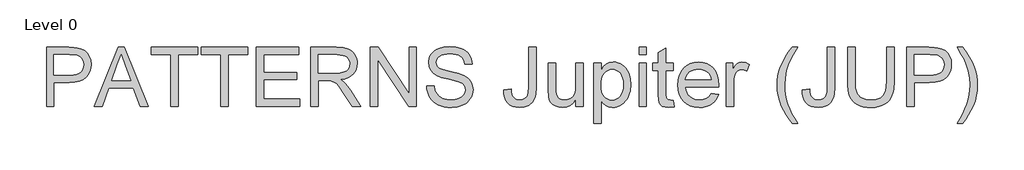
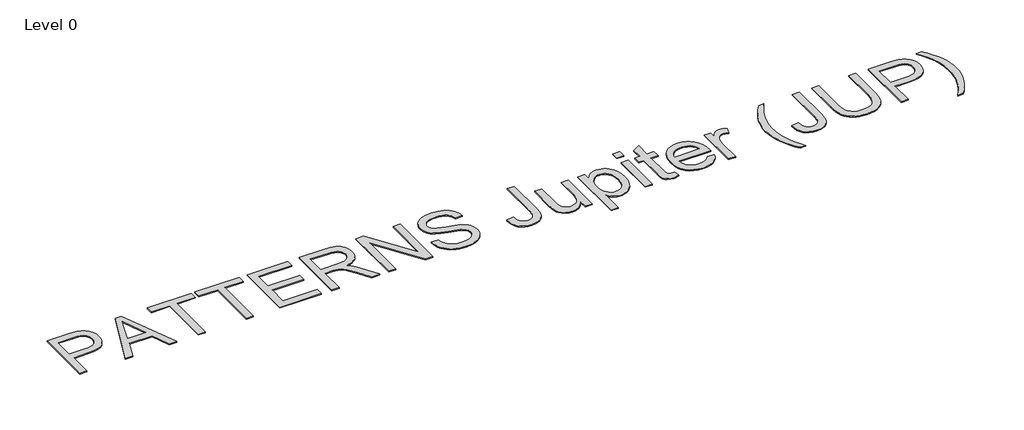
# One storey, part 24 of 29: 1 proxy.
"""IFC4 building model written with IfcOpenShell, lengths in millimetres."""

from ifc_helpers import new_model, si_unit, origin, origin_with_axes, place, context, project, spatial, polyline, outline, extrude, element, save

model = new_model("IFC4")

# Units and contexts
model_context = context("Model", 3, world=origin())
ifc_project = project(units=[si_unit("LENGTHUNIT", "METRE", prefix="MILLI")], contexts=[model_context])

# Site, building, storey
site = spatial("IfcSite", under=ifc_project)
building = spatial("IfcBuilding", under=site)
storey = spatial("IfcBuildingStorey", under=building, Name="Level 0", Elevation=0.0)

# Proxy
placement = place(None, origin())
element("IfcBuildingElementProxy", 1, Name="600mm Arial", ObjectType="600mm Arial", at=placement, inside=storey, context=model_context, shape_type="SweptSolid", body=[
    extrude(outline(polyline([(17122.5368148, -2239.8720473), (17122.5368148, -1637.1341864), (17345.9147622, -1637.1341864), (17397.9332763, -1638.5689262), (17435.9722746, -1642.8731456), (17476.1265944, -1653.5969057), (17509.1807917, -1671.0529064), (17535.797054, -1696.0320939), (17556.6375691, -1729.3254144), (17570.1020501, -1768.5968174), (17574.5902104, -1811.5102521), (17571.5597825, -1848.5099838), (17562.4684987, -1882.5482654), (17547.316359, -1913.625097), (17526.1033635, -1941.7404784), (17496.980905, -1965.0458028), (17458.1003767, -1981.6924631), (17409.4617784, -1991.6804593), (17351.0651102, -1995.0097913), (17197.8790474, -1995.0097913), (17197.8790474, -2239.8720473), (17122.5368148, -2239.8720473)]), holes=[polyline([(17197.8790474, -1919.6675587), (17355.4796941, -1919.6675587), (17391.7160706, -1917.9385133), (17422.2870644, -1912.7513772), (17447.1926755, -1904.1061503), (17466.4329039, -1892.0028327), (17480.7894987, -1876.763321), (17491.0442093, -1858.7095121), (17497.1970357, -1837.8414059), (17499.2479778, -1814.1590025), (17494.4103296, -1780.313859), (17479.8973849, -1751.7662161), (17457.5117655, -1730.2819076), (17429.0560931, -1717.626767), (17399.9934155, -1713.764006), (17353.7138605, -1712.476419), (17197.8790474, -1712.476419), (17197.8790474, -1919.6675587)])]), origin_with_axes(), (0.0, 0.0, 1.0), 10.0),
    extrude(outline(polyline([(17607.9938956, -2239.8720473), (17848.5887204, -1637.1341864), (17912.7473404, -1637.1341864), (18153.3421652, -2239.8720473), (18073.7325015, -2239.8720473), (18004.7178392, -2051.5164658), (17756.4710688, -2051.5164658), (17687.6035594, -2239.8720473), (17607.9938956, -2239.8720473)]), holes=[polyline([(17784.1357949, -1976.1742332), (17977.200266, -1976.1742332), (17922.9008835, -1827.9913655), (17880.6680304, -1712.476419), (17843.1440669, -1815.0419193), (17784.1357949, -1976.1742332)])]), origin_with_axes(), (0.0, 0.0, 1.0), 10.0),
    extrude(outline(polyline([(18384.519211, -2239.8720473), (18384.519211, -1712.476419), (18186.7458504, -1712.476419), (18186.7458504, -1637.1341864), (18657.6348042, -1637.1341864), (18657.6348042, -1712.476419), (18459.8614436, -1712.476419), (18459.8614436, -2239.8720473), (18384.519211, -2239.8720473)])), origin_with_axes(), (0.0, 0.0, 1.0), 10.0),
    extrude(outline(polyline([(18893.0792811, -2239.8720473), (18893.0792811, -1712.476419), (18695.3059205, -1712.476419), (18695.3059205, -1637.1341864), (19166.1948744, -1637.1341864), (19166.1948744, -1712.476419), (18968.4215138, -1712.476419), (18968.4215138, -2239.8720473), (18893.0792811, -2239.8720473)])), origin_with_axes(), (0.0, 0.0, 1.0), 10.0),
    extrude(outline(polyline([(19250.9548861, -2239.8720473), (19250.9548861, -1637.1341864), (19684.1727236, -1637.1341864), (19684.1727236, -1712.476419), (19326.2971187, -1712.476419), (19326.2971187, -1891.4142215), (19665.3371654, -1891.4142215), (19665.3371654, -1966.7564541), (19326.2971187, -1966.7564541), (19326.2971187, -2164.5298147), (19693.5905027, -2164.5298147), (19693.5905027, -2239.8720473), (19250.9548861, -2239.8720473)])), origin_with_axes(), (0.0, 0.0, 1.0), 10.0),
    extrude(outline(polyline([(19806.6038516, -2239.8720473), (19806.6038516, -1637.1341864), (20066.3285402, -1637.1341864), (20136.1341487, -1641.1992825), (20186.9202582, -1653.3945706), (20206.5191715, -1663.0882612), (20224.0395515, -1675.9089487), (20239.4813982, -1691.8566332), (20252.8447117, -1710.9313147), (20263.6282527, -1732.107522), (20271.330782, -1754.3597842), (20275.9522995, -1777.6881012), (20277.4928054, -1802.0924731), (20274.9406241, -1833.049743), (20267.28408, -1861.4686271), (20254.5231733, -1887.3491255), (20236.6579039, -1910.691238), (20213.4583456, -1930.7500038), (20184.6945721, -1946.7804618), (20150.3665834, -1958.7826119), (20110.4743796, -1966.7564541), (20135.3064143, -1982.9800501), (20153.2958438, -1998.9829169), (20184.1611432, -2035.5871754), (20214.364255, -2076.5324415), (20314.8696161, -2239.8720473), (20227.3137013, -2239.8720473), (20148.8812599, -2114.9393218), (20092.2274326, -2032.2394493), (20071.1661884, -2008.1247845), (20052.4226007, -1993.1703814), (20016.5908944, -1978.8229836), (19972.8865134, -1976.1742332), (19881.9460842, -1976.1742332), (19881.9460842, -2239.8720473), (19806.6038516, -2239.8720473)]), holes=[polyline([(19881.9460842, -1900.8320006), (20050.5831908, -1900.8320006), (20099.0148554, -1898.1648561), (20136.5940012, -1890.1634227), (20164.8841267, -1876.2942715), (20185.4487302, -1856.0239736), (20197.9751121, -1831.5046386), (20202.1505728, -1804.8883762), (20200.1594115, -1785.6205567), (20194.1859276, -1768.1369649), (20184.2301211, -1752.4376008), (20170.291992, -1738.5224643), (20152.0496436, -1727.1273195), (20129.181179, -1718.9879304), (20101.6865984, -1714.1042969), (20069.5659017, -1712.476419), (19881.9460842, -1712.476419), (19881.9460842, -1900.8320006)])]), origin_with_axes(), (0.0, 0.0, 1.0), 10.0),
    extrude(outline(polyline([(20409.3417125, -2239.8720473), (20409.3417125, -1637.1341864), (20489.9814458, -1637.1341864), (20804.8884337, -2114.6450162), (20804.8884337, -1637.1341864), (20880.2306663, -1637.1341864), (20880.2306663, -2239.8720473), (20799.590933, -2239.8720473), (20484.6839451, -1762.2140648), (20484.6839451, -2239.8720473), (20409.3417125, -2239.8720473)])), origin_with_axes(), (0.0, 0.0, 1.0), 10.0),
    extrude(outline(polyline([(20983.8262361, -2032.6809076), (21059.1684687, -2032.6809076), (21067.8136956, -2074.4906964), (21083.4486804, -2108.0967167), (21107.8392567, -2134.7681613), (21142.7512581, -2155.7742232), (21185.4255695, -2169.4042512), (21233.1030761, -2173.9475938), (21275.0784117, -2170.5078971), (21311.829823, -2160.1888072), (21341.6098705, -2143.8548466), (21362.6711148, -2122.3705381), (21375.1974967, -2097.7040503), (21379.3729573, -2071.8235519), (21376.2459604, -2046.6052412), (21366.8649695, -2024.8082329), (21347.8086822, -2006.2117981), (21315.6557958, -1990.5952074), (21205.9533848, -1961.8268354), (21133.9404843, -1942.7889421), (21087.8632644, -1924.6707539), (21050.357695, -1899.3236844), (21023.7782208, -1868.6055378), (21007.9409009, -1833.1785017), (21002.6617943, -1793.7047636), (21004.2942706, -1771.2685604), (21009.1916997, -1749.5773183), (21017.3540815, -1728.6310372), (21028.7814159, -1708.4297171), (21043.3449444, -1689.796494), (21060.9159082, -1673.554504), (21081.4943073, -1659.7037468), (21105.0801417, -1648.2442227), (21158.0919372, -1632.8483612), (21216.7691155, -1627.7164074), (21280.3391242, -1633.0874845), (21335.9628819, -1649.2007159), (21360.2982759, -1661.202866), (21381.6538257, -1675.7250077), (21400.0295314, -1692.7671412), (21415.4253929, -1712.3292662), (21427.7218486, -1733.8411659), (21436.7993368, -1756.7326231), (21442.6578576, -1781.0036377), (21445.2974109, -1806.6542098), (21369.9551783, -1806.6542098), (21364.9151949, -1782.6131214), (21356.1228153, -1761.69903), (21343.5780392, -1743.9119355), (21327.2808668, -1729.251838), (21306.9277954, -1717.7923139), (21282.2153224, -1709.6069395), (21253.1434478, -1704.6957148), (21219.7121714, -1703.05864), (21185.2140373, -1704.6773207), (21155.7374925, -1709.5333631), (21131.2825369, -1717.626767), (21111.8491705, -1728.9575324), (21097.0419202, -1742.5783633), (21086.4653128, -1757.5419635), (21080.1193484, -1773.8483329), (21078.0040269, -1791.4974716), (21079.503146, -1806.681801), (21084.0005034, -1820.4497846), (21091.4960991, -1832.8014226), (21101.989933, -1843.7367149), (21118.5078346, -1854.0925931), (21144.5170916, -1864.5588358), (21225.0096722, -1885.8224152), (21308.0774267, -1906.0191367), (21358.3301072, -1923.6406843), (21401.2803302, -1950.9743165), (21417.8856037, -1967.0415627), (21431.2443187, -1984.7090955), (21441.5128249, -2003.8849445), (21448.8474721, -2024.4771392), (21454.71519, -2069.9105656), (21453.0275313, -2093.4780059), (21447.9645553, -2116.3556674), (21439.5262621, -2138.5435503), (21427.7126515, -2160.0416544), (21412.7306573, -2180.0176467), (21394.7872129, -2197.6391943), (21373.8823186, -2212.9062971), (21350.0159741, -2225.8189551), (21323.8825569, -2236.0874613), (21296.1764441, -2243.4221086), (21236.046132, -2249.2898264), (21197.5058945, -2247.7079338), (21162.2306097, -2242.9622561), (21130.2202776, -2235.0527932), (21101.4748982, -2223.9795451), (21075.8197276, -2209.7241178), (21053.0800217, -2192.2681172), (21033.2557807, -2171.6115431), (21016.3470045, -2147.7543957), (21002.7261736, -2121.4692272), (20992.7657686, -2093.5285896), (20986.4657894, -2063.9324831), (20983.8262361, -2032.6809076)])), origin_with_axes(), (0.0, 0.0, 1.0), 10.0),
    extrude(outline(polyline([(21765.5018995, -2070.6463295), (21840.8441321, -2060.9342449), (21843.5020795, -2090.8890363), (21848.6800186, -2115.711874), (21856.3779493, -2135.4027577), (21866.5958718, -2149.9616877), (21879.177436, -2160.4555216), (21893.9662922, -2167.9511173), (21910.9624404, -2172.4484747), (21930.1658805, -2173.9475938), (21957.9961535, -2170.5446853), (21981.7429363, -2160.33596), (22000.0634596, -2144.2595168), (22011.6149543, -2123.2534549), (22017.7401895, -2092.848008), (22019.7819346, -2048.5734098), (22019.7819346, -1637.1341864), (22095.1241672, -1637.1341864), (22095.1241672, -2047.2490347), (22090.5808245, -2114.3323165), (22084.9016462, -2141.4590151), (22076.9507966, -2164.3090855), (22066.5305391, -2183.7930357), (22053.4431371, -2200.8213735), (22037.6885907, -2215.3940991), (22019.2668998, -2227.5112123), (21976.353465, -2243.8451729), (21926.6342134, -2249.2898264), (21889.505723, -2246.4801277), (21856.9941517, -2238.0510315), (21829.0994994, -2224.0025378), (21805.8217662, -2204.3346466), (21787.5748192, -2179.1209344), (21774.7725258, -2148.4349774), (21767.4148859, -2112.2767758), (21765.5018995, -2070.6463295)])), origin_with_axes(), (0.0, 0.0, 1.0), 10.0),
    extrude(outline(polyline([(22500.0886675, -2239.8720473), (22500.0886675, -2163.7940507), (22472.8286116, -2201.1984526), (22441.0803954, -2227.9158825), (22404.8440189, -2243.9463404), (22364.119482, -2249.2898264), (22327.423253, -2245.5374301), (22293.2654098, -2234.280241), (22264.6074023, -2217.3576692), (22244.4106808, -2196.6091247), (22230.8174411, -2171.409208), (22221.9698791, -2141.1325198), (22217.5552952, -2071.0877879), (22217.5552952, -1797.2364307), (22292.8975278, -1797.2364307), (22292.8975278, -2035.6239636), (22294.037962, -2083.3014702), (22297.4592645, -2112.4377242), (22308.4405421, -2138.0607052), (22327.2577061, -2157.5400568), (22352.6599579, -2169.8457095), (22383.3964986, -2173.9475938), (22415.8988729, -2169.753739), (22446.3043198, -2157.1721748), (22471.3754777, -2137.3617294), (22487.8749852, -2111.481231), (22497.0352469, -2076.0358008), (22500.0886675, -2027.5305597), (22500.0886675, -1797.2364307), (22575.4309001, -1797.2364307), (22575.4309001, -2239.8720473), (22500.0886675, -2239.8720473)])), origin_with_axes(), (0.0, 0.0, 1.0), 10.0),
    extrude(outline(polyline([(22679.0264699, -2409.3920707), (22679.0264699, -1797.2364307), (22754.3687025, -1797.2364307), (22754.3687025, -1871.1071354), (22778.9432198, -1834.6684237), (22806.460793, -1808.6407726), (22838.540103, -1793.0241819), (22876.7998305, -1787.8186517), (22903.075802, -1789.6396675), (22927.7514868, -1795.1027152), (22950.826885, -1804.2077945), (22972.3019965, -1816.9549057), (22991.7077717, -1833.0129548), (23008.5751612, -1852.050848), (23022.9041649, -1874.0685854), (23034.6947828, -1899.066167), (23050.4769204, -1954.5795601), (23055.737633, -2015.1697247), (23049.7963387, -2079.6042561), (23042.369721, -2109.2693405), (23031.9724561, -2137.2329707), (23018.7470984, -2162.7639811), (23002.8362021, -2185.1312064), (22984.2397672, -2204.3346466), (22962.9577938, -2220.3743016), (22940.034147, -2233.0248437), (22916.5126919, -2242.0609452), (22892.3934286, -2247.4826061), (22867.676357, -2249.2898264), (22833.0402672, -2244.4521782), (22802.1197855, -2229.9392335), (22775.6506759, -2208.0318606), (22754.3687025, -2181.0109281), (22754.3687025, -2409.3920707), (22679.0264699, -2409.3920707)]), holes=[polyline([(22754.3687025, -2022.0859062), (22756.4058491, -2058.3958591), (22762.5172887, -2089.6290405), (22772.7030215, -2115.7854504), (22786.9630473, -2136.8650887), (22804.1293409, -2153.0886847), (22823.0338769, -2164.6769675), (22843.6766554, -2171.6299372), (22866.0576763, -2173.9475938), (22888.7605939, -2171.5471638), (22909.7804514, -2164.3458737), (22929.1172488, -2152.3437236), (22946.770986, -2135.5407135), (22961.4816673, -2113.69772), (22971.9892968, -2086.5756199), (22978.2938745, -2054.1744132), (22980.3954004, -2016.4940999), (22978.3444582, -1980.4968466), (22972.1916319, -1949.3188475), (22961.9369213, -1922.9601026), (22947.5803264, -1901.4206118), (22930.3726461, -1884.681981), (22911.5646791, -1872.7258161), (22891.1564254, -1865.5521172), (22869.147885, -1863.1608843), (22847.2083225, -1865.7038686), (22826.5655441, -1873.3328214), (22807.2195497, -1886.0477429), (22789.1703393, -1903.8486329), (22773.9446232, -1926.4963683), (22763.0691117, -1953.7518256), (22756.5438048, -1985.6150049), (22754.3687025, -2022.0859062)])]), origin_with_axes(), (0.0, 0.0, 1.0), 10.0),
    extrude(outline(polyline([(23140.4976447, -1712.476419), (23140.4976447, -1637.1341864), (23215.8398773, -1637.1341864), (23215.8398773, -1712.476419), (23140.4976447, -1712.476419)])), origin_with_axes(), (0.0, 0.0, 1.0), 10.0),
    extrude(outline(polyline([(23140.4976447, -2239.8720473), (23140.4976447, -1797.2364307), (23215.8398773, -1797.2364307), (23215.8398773, -2239.8720473), (23140.4976447, -2239.8720473)])), origin_with_axes(), (0.0, 0.0, 1.0), 10.0),
    extrude(outline(polyline([(23488.9554705, -2177.0378026), (23498.3732496, -2242.0793393), (23442.0137279, -2249.2898264), (23405.8509278, -2246.1628294), (23378.8851775, -2236.7818386), (23359.8288902, -2222.3240762), (23347.3944787, -2203.9667646), (23340.5518736, -2172.4392776), (23338.2710053, -2118.4709889), (23338.2710053, -1872.5786633), (23281.7643308, -1872.5786633), (23281.7643308, -1797.2364307), (23338.2710053, -1797.2364307), (23338.2710053, -1689.6677353), (23413.6132379, -1645.3747431), (23413.6132379, -1797.2364307), (23488.9554705, -1797.2364307), (23488.9554705, -1872.5786633), (23413.6132379, -1872.5786633), (23413.6132379, -2116.2636969), (23417.5863634, -2155.1120356), (23430.4622333, -2168.8708223), (23441.3331462, -2172.6784009), (23456.1403965, -2173.9475938), (23488.9554705, -2177.0378026)])), origin_with_axes(), (0.0, 0.0, 1.0), 10.0),
    extrude(outline(polyline([(23874.2014958, -2108.0231403), (23948.0722005, -2117.4409193), (23936.7460335, -2147.0278288), (23921.4559381, -2173.1014652), (23902.2019142, -2195.6618286), (23878.9839618, -2214.7089189), (23852.0412042, -2229.8380659), (23821.6127646, -2240.6445995), (23787.6986432, -2247.1285197), (23750.2988399, -2249.2898264), (23703.5502353, -2245.5604227), (23661.8967964, -2234.3722115), (23625.3385232, -2215.7251929), (23593.8754155, -2189.6193668), (23568.5743313, -2156.7813002), (23550.5021283, -2117.93756), (23539.6588065, -2073.0881463), (23536.0443659, -2022.233059), (23539.6955947, -1969.6535248), (23550.6492811, -1923.3095905), (23568.9054251, -1883.201256), (23594.4640267, -1849.3285212), (23625.8443609, -1822.4179533), (23661.5657026, -1803.1961191), (23701.6280519, -1791.6630185), (23746.0314087, -1787.8186517), (23789.0046243, -1791.6538215), (23827.8667585, -1803.1593309), (23862.6178115, -1822.3351799), (23893.2577832, -1849.1813685), (23918.2691603, -1882.9805268), (23936.1344297, -1923.0152849), (23946.8535914, -1969.2856428), (23950.4266452, -2021.7916006), (23949.9851868, -2042.0986867), (23611.3865985, -2042.0986867), (23615.7505987, -2072.1638428), (23624.4280152, -2098.4949966), (23637.4188482, -2121.0921481), (23654.7230975, -2139.9552974), (23675.3842701, -2154.8269271), (23698.4458726, -2165.4495197), (23723.9079052, -2171.8230753), (23751.7703678, -2173.9475938), (23791.8695053, -2170.0112564), (23825.6410725, -2158.2022444), (23853.0850693, -2137.7847937), (23874.2014958, -2108.0231403)]), holes=[polyline([(23611.3865985, -1966.7564541), (23875.0844126, -1966.7564541), (23864.8940814, -1926.9516222), (23856.1292928, -1911.2982433), (23844.918089, -1898.4775558), (23824.3718796, -1883.026512), (23800.9929788, -1871.9900522), (23774.7813866, -1865.3681762), (23745.7371031, -1863.1608843), (23719.2450009, -1864.9221193), (23694.9509937, -1870.2058245), (23672.8550814, -1879.0119997), (23652.9572639, -1891.3406451), (23636.2600199, -1906.6215435), (23623.7658276, -1924.2844778), (23615.4746872, -1944.329448), (23611.3865985, -1966.7564541)])]), origin_with_axes(), (0.0, 0.0, 1.0), 10.0),
    extrude(outline(polyline([(24025.7688779, -2239.8720473), (24025.7688779, -1797.2364307), (24091.6933314, -1797.2364307), (24091.6933314, -1862.7194259), (24116.0471195, -1824.754004), (24138.4879212, -1802.3867787), (24161.0022993, -1791.4606834), (24185.5768166, -1787.8186517), (24223.1007801, -1793.6311872), (24261.2133548, -1811.0687938), (24236.0502263, -1878.6119281), (24209.5627226, -1867.0236452), (24183.075219, -1863.1608843), (24160.579235, -1866.8764924), (24140.4744839, -1878.0233169), (24124.2324939, -1895.755229), (24113.3247927, -1919.2261003), (24104.164531, -1961.3118006), (24101.1111105, -2007.2234736), (24101.1111105, -2239.8720473), (24025.7688779, -2239.8720473)])), origin_with_axes(), (0.0, 0.0, 1.0), 10.0),
    extrude(outline(polyline([(24694.4311923, -2409.3920707), (24664.0165483, -2370.0378943), (24636.0483197, -2327.4647504), (24610.5265062, -2281.672639), (24587.4511081, -2232.6615602), (24568.3304414, -2181.5811452), (24554.6728223, -2129.5810252), (24546.4782509, -2076.6612002), (24543.7467271, -2022.8216702), (24545.7884721, -1975.5028485), (24551.9137074, -1929.1957024), (24562.1224327, -1883.9002317), (24576.4146482, -1839.6164366), (24598.13808, -1788.8303271), (24625.048648, -1738.1545823), (24657.1463521, -1687.5892021), (24694.4311923, -1637.1341864), (24750.9378667, -1637.1341864), (24706.6080863, -1708.7608109), (24680.4516765, -1756.4751057), (24656.392194, -1813.1289329), (24638.0716706, -1872.137205), (24623.8346374, -1947.5162258), (24619.0889597, -2023.2631286), (24621.1490988, -2071.561436), (24627.3295164, -2119.8505464), (24637.6302122, -2168.1304597), (24652.0511864, -2216.401176), (24670.592439, -2264.6626953), (24693.2539699, -2312.9150175), (24720.0357792, -2361.1581426), (24750.9378667, -2409.3920707), (24694.4311923, -2409.3920707)])), origin_with_axes(), (0.0, 0.0, 1.0), 10.0),
    extrude(outline(polyline([(24798.0267621, -2070.6463295), (24873.3689947, -2060.9342449), (24876.0269422, -2090.8890363), (24881.2048812, -2115.711874), (24888.902812, -2135.4027577), (24899.1207344, -2149.9616877), (24911.7022986, -2160.4555216), (24926.4911548, -2167.9511173), (24943.487303, -2172.4484747), (24962.6907432, -2173.9475938), (24990.5210161, -2170.5446853), (25014.2677989, -2160.33596), (25032.5883223, -2144.2595168), (25044.1398169, -2123.2534549), (25050.2650521, -2092.848008), (25052.3067972, -2048.5734098), (25052.3067972, -1637.1341864), (25127.6490298, -1637.1341864), (25127.6490298, -2047.2490347), (25123.1056872, -2114.3323165), (25117.4265089, -2141.4590151), (25109.4756592, -2164.3090855), (25099.0554017, -2183.7930357), (25085.9679998, -2200.8213735), (25070.2134533, -2215.3940991), (25051.7917624, -2227.5112123), (25008.8783277, -2243.8451729), (24959.159076, -2249.2898264), (24922.0305857, -2246.4801277), (24889.5190143, -2238.0510315), (24861.624362, -2224.0025378), (24838.3466288, -2204.3346466), (24820.0996818, -2179.1209344), (24807.2973884, -2148.4349774), (24799.9397485, -2112.2767758), (24798.0267621, -2070.6463295)])), origin_with_axes(), (0.0, 0.0, 1.0), 10.0),
    extrude(outline(polyline([(25655.0446581, -1637.1341864), (25730.3868907, -1637.1341864), (25730.3868907, -1984.8562483), (25725.273331, -2066.2869279), (25718.8813813, -2099.9803201), (25709.9326518, -2128.992414), (25697.6545902, -2154.4222569), (25681.2746443, -2177.3688963), (25660.7928143, -2197.8323323), (25636.2090999, -2215.8125648), (25607.4959102, -2230.4588668), (25574.6256539, -2240.920511), (25537.5983311, -2247.1974976), (25496.4139418, -2249.2898264), (25456.2458264, -2247.4688105), (25419.9128809, -2242.0057629), (25387.4151051, -2232.9006835), (25358.7524992, -2220.1535724), (25333.9204645, -2203.952969), (25312.9144026, -2184.487413), (25295.7343134, -2161.7569042), (25282.380197, -2135.7614427), (25272.3692082, -2105.6089147), (25265.2185019, -2070.4072063), (25260.9280781, -2030.1563175), (25259.4979369, -1984.8562483), (25259.4979369, -1637.1341864), (25334.8401695, -1637.1341864), (25334.8401695, -1982.2074979), (25338.5557776, -2049.9161791), (25349.7026021, -2097.0602568), (25358.4673906, -2114.4380825), (25369.8993236, -2129.7097839), (25383.9984011, -2142.8753608), (25400.764623, -2153.9348133), (25441.0109133, -2168.9443987), (25489.3506075, -2173.9475938), (25530.8752877, -2171.4735874), (25565.9804271, -2164.0515681), (25594.6660256, -2151.681536), (25616.9320834, -2134.3634911), (25633.6063348, -2110.009703), (25645.5165144, -2076.5324415), (25652.6626222, -2033.9317064), (25655.0446581, -1982.2074979), (25655.0446581, -1637.1341864)])), origin_with_axes(), (0.0, 0.0, 1.0), 10.0),
    extrude(outline(polyline([(25862.2357978, -2239.8720473), (25862.2357978, -1637.1341864), (26085.6137452, -1637.1341864), (26137.6322594, -1638.5689262), (26175.6712577, -1642.8731456), (26215.8255774, -1653.5969057), (26248.8797747, -1671.0529064), (26275.4960371, -1696.0320939), (26296.3365521, -1729.3254144), (26309.8010331, -1768.5968174), (26314.2891934, -1811.5102521), (26311.2587655, -1848.5099838), (26302.1674817, -1882.5482654), (26287.015342, -1913.625097), (26265.8023465, -1941.7404784), (26236.679888, -1965.0458028), (26197.7993597, -1981.6924631), (26149.1607614, -1991.6804593), (26090.7640932, -1995.0097913), (25937.5780304, -1995.0097913), (25937.5780304, -2239.8720473), (25862.2357978, -2239.8720473)]), holes=[polyline([(25937.5780304, -1919.6675587), (26095.1786771, -1919.6675587), (26131.4150536, -1917.9385133), (26161.9860474, -1912.7513772), (26186.8916585, -1904.1061503), (26206.1318869, -1892.0028327), (26220.4884817, -1876.763321), (26230.7431923, -1858.7095121), (26236.8960187, -1837.8414059), (26238.9469608, -1814.1590025), (26234.1093126, -1780.313859), (26219.5963679, -1751.7662161), (26197.2107485, -1730.2819076), (26168.7550762, -1717.626767), (26139.6923985, -1713.764006), (26093.4128435, -1712.476419), (25937.5780304, -1712.476419), (25937.5780304, -1919.6675587)])]), origin_with_axes(), (0.0, 0.0, 1.0), 10.0),
    extrude(outline(polyline([(26427.3025424, -2409.3920707), (26370.7958679, -2409.3920707), (26401.6979555, -2361.1581426), (26428.4797648, -2312.9150175), (26451.1412957, -2264.6626953), (26469.6825482, -2216.401176), (26484.1035224, -2168.1304597), (26494.4042183, -2119.8505464), (26500.5846358, -2071.561436), (26502.644775, -2023.2631286), (26497.8990972, -1948.0680488), (26483.662064, -1873.4615801), (26465.6726345, -1814.3429435), (26441.7235166, -1757.6523281), (26415.4567421, -1709.4229985), (26370.7958679, -1637.1341864), (26427.3025424, -1637.1341864), (26464.5873826, -1687.5892021), (26496.6850867, -1738.1545823), (26523.5956546, -1788.8303271), (26545.3190864, -1839.6164366), (26559.6113019, -1883.9002317), (26569.8200273, -1929.1957024), (26575.9452625, -1975.5028485), (26577.9870076, -2022.8216702), (26575.2416882, -2076.6612002), (26567.00573, -2129.5810252), (26553.2791331, -2181.5811452), (26534.0618974, -2232.6615602), (26510.9175213, -2281.672639), (26485.4095035, -2327.4647504), (26457.5378438, -2370.0378943), (26427.3025424, -2409.3920707)])), origin_with_axes(), (0.0, 0.0, 1.0), 10.0),
])

save(model, "model.ifc")
